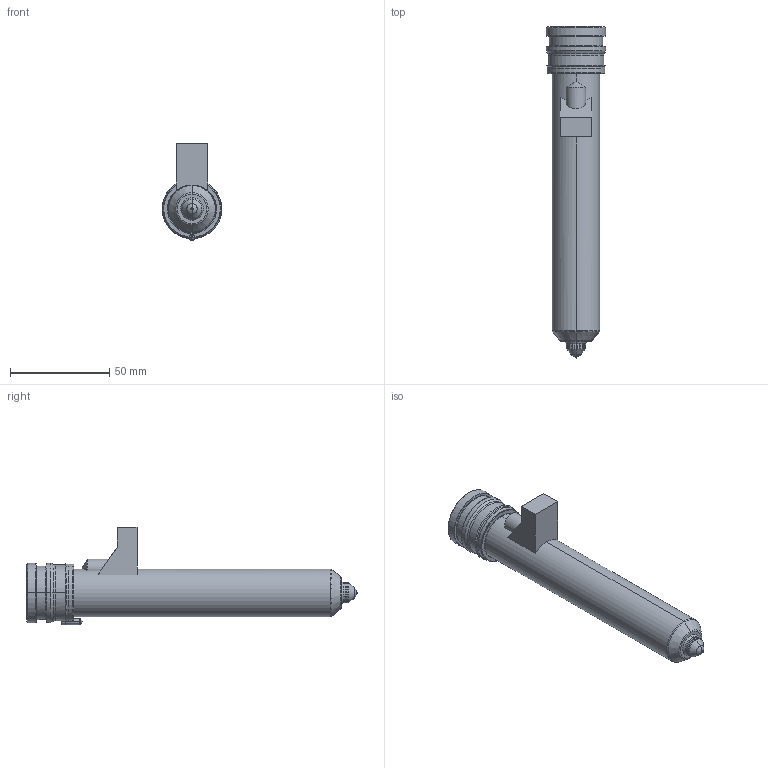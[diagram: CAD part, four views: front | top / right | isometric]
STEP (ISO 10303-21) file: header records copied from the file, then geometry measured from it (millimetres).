
FILE_DESCRIPTION((''),'2;1');
FILE_NAME('MPN-10-29-VX10-146-M','2026-02-05T12:57:21',('UPTIO'),('Thermoplay S.p.A.'),'CREO PARAMETRIC BY PTC INC, 2023494','CREO PARAMETRIC BY PTC INC, 2023494','');
FILE_SCHEMA(('CONFIG_CONTROL_DESIGN','SHAPE_APPEARANCE_LAYERS_GROUPS'));
Length unit declared in the file: millimetre
Products named in the file (1): MPN-10-29-VX10-146-M
Bounding box: 30 x 167.5 x 49 mm (x, y, z)
Volume: 51995.5 mm3; surface area: 53581.8 mm2
Topology: 3 solids, 5 shells, 547 faces, 1387 edges, 846 vertices
Faces by surface type: cylinder 179, plane 147, torus 71, bspline 70, cone 68, sphere 8, extrusion 4
Entity records: 28729 total; most frequent: CARTESIAN_POINT 12764, ORIENTED_EDGE 2760, DIRECTION 2638, EDGE_CURVE 1380, AXIS2_PLACEMENT_3D 1050, VERTEX_POINT 846, EDGE_LOOP 576, CIRCLE 576
